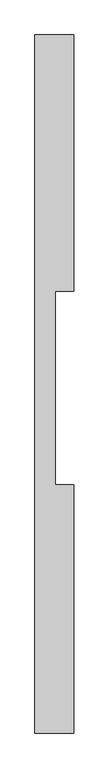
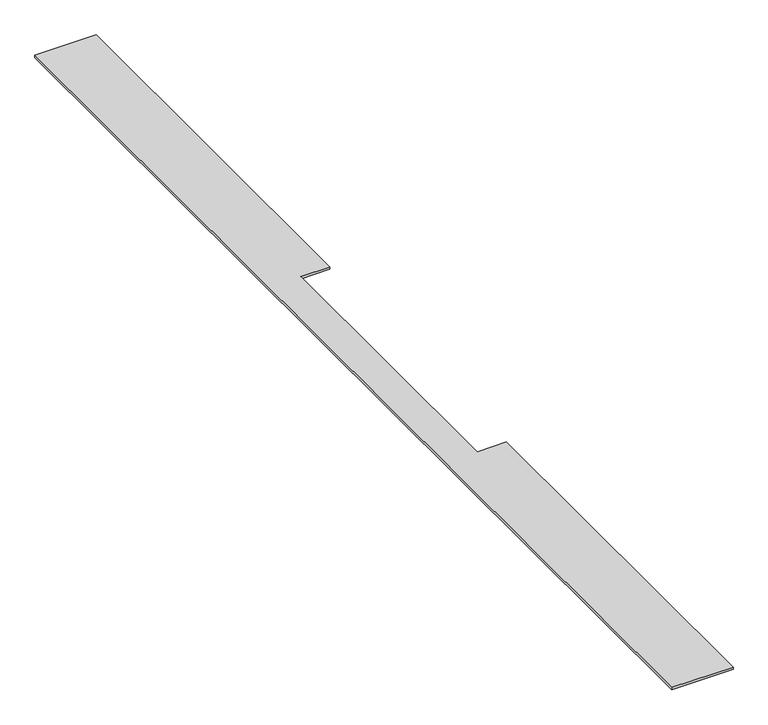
"""IFC4 building model written with IfcOpenShell, lengths in millimetres: proxy geometry, Фиброцементная сайдинг-панель LATONIT_1 прямоугольное отверстие : 8 мм."""

from ifc_helpers import new_model, si_unit, frame, origin, place, context, project, spatial, polyline, outline, extrude, source, transform, mapped, element, save


def generic_models_a0d2c6d1(model_context):
    return source(origin(), model_context, "Body", "SweptSolid", [
        extrude(outline(polyline([(200.0, 0.0), (0.0, 0.0), (0.0, 3600.0), (200.0, 3600.0), (200.0, 2278.5), (105.0, 2278.5), (105.0, 1281.5), (200.0, 1281.5), (200.0, 0.0)])), frame((0.0, 0.0, 242.0), z_axis=(0.0, 0.0, 1.0), x_axis=(1.0, 0.0, 0.0)), (0.0, 0.0, 1.0), 8.0),
    ])


if __name__ == "__main__":
    model = new_model("IFC4")
    model_context = context("Model", 3, world=origin())
    ifc_project = project(units=[si_unit("LENGTHUNIT", "METRE", prefix="MILLI")], contexts=[model_context])
    site = spatial("IfcSite", under=ifc_project)
    building = spatial("IfcBuilding", under=site)
    placement = place(None, origin())
    generic_models_shape = generic_models_a0d2c6d1(model_context)
    element("IfcBuildingElementProxy", 1, Name="Фиброцементная сайдинг-панель LATONIT_1 прямоугольное отверстие : 8 мм", ObjectType="Фиброцементная сайдинг-панель LATONIT_1 прямоугольное отверстие : 8 мм", at=placement, inside=building, context=model_context, shape_type="MappedRepresentation", body=[
        mapped(generic_models_shape, transform((0.0, 0.0, 0.0), x_axis=(1.0, 0.0, 0.0), y_axis=(0.0, 1.0, 0.0), z_axis=(0.0, 0.0, 1.0))),
    ])
    save(model, "model.ifc")
